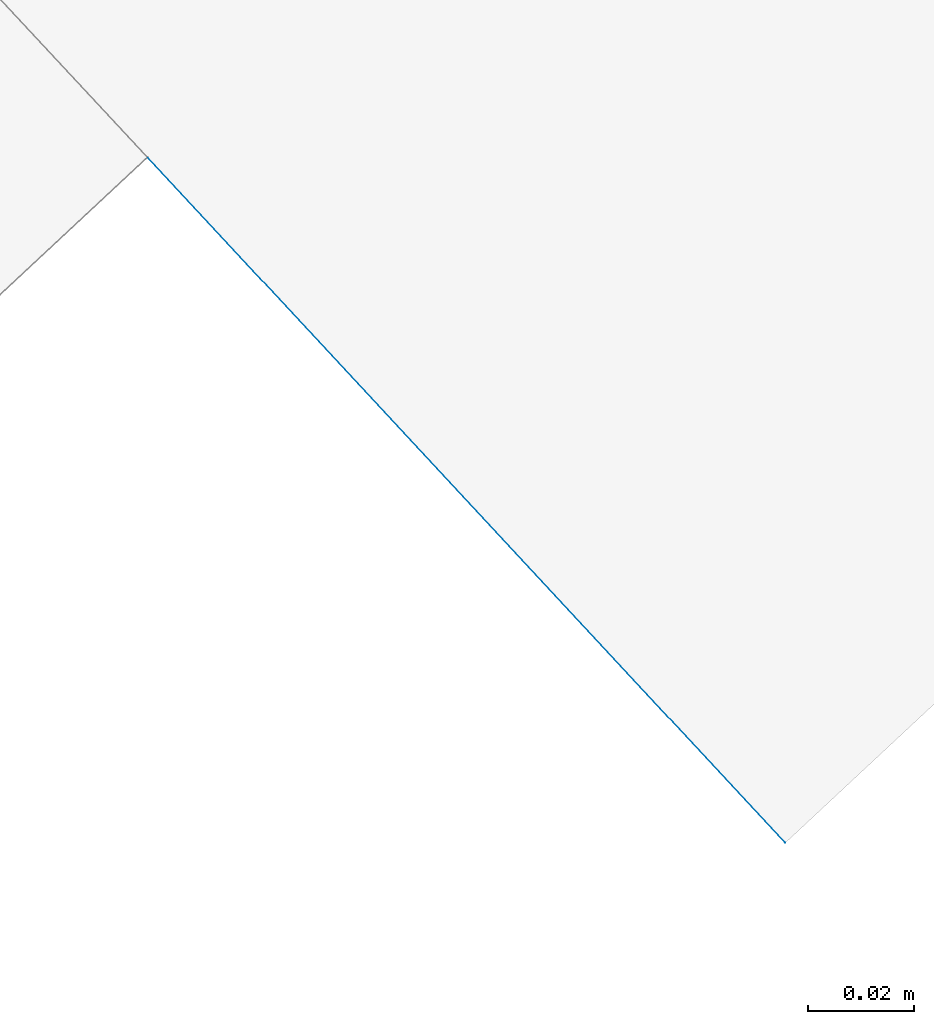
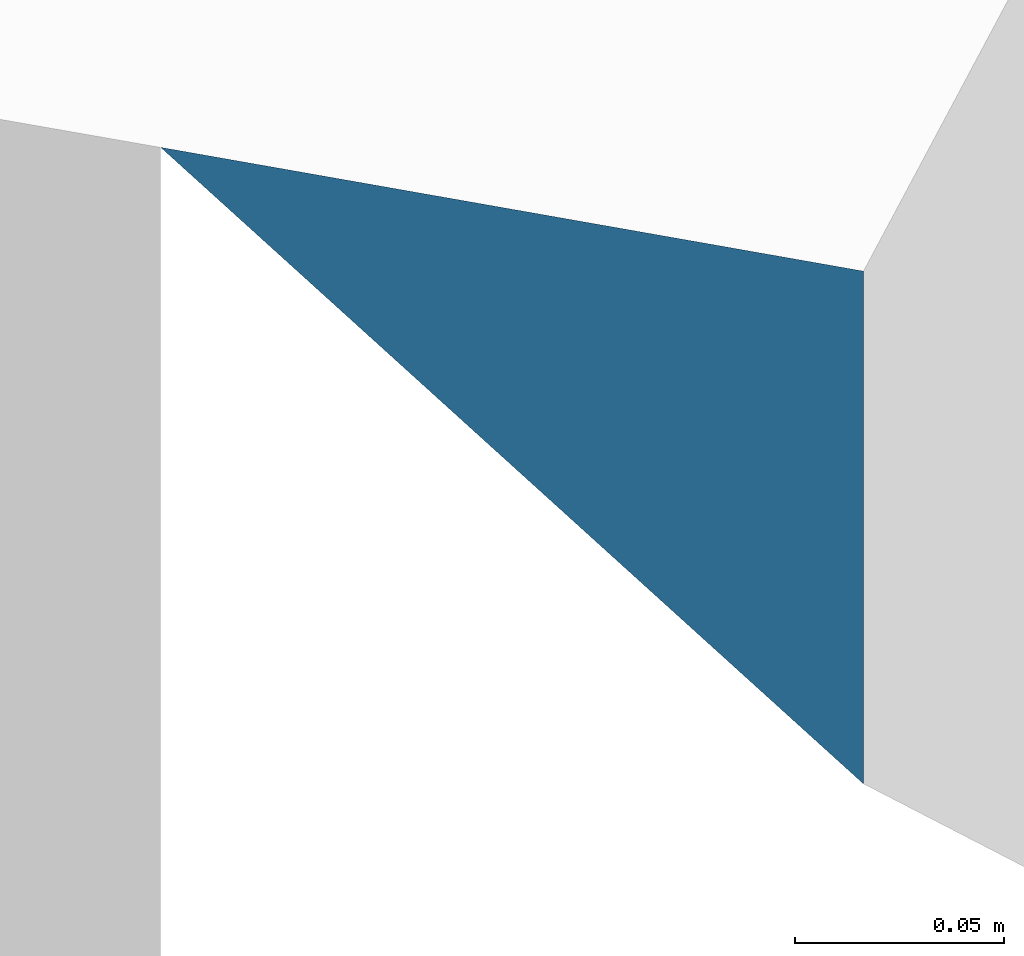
# Not in any storey, part 91 of 136: 1 wall.
"""IFC2X3 building model written with IfcOpenShell, lengths in metres."""

import ifcopenshell
import ifcopenshell.guid

model = None  # the IFC model being written
_history = None  # IfcOwnerHistory: only IFC2X3 demands one
_inside = {}  # id of a spatial element -> (the spatial element, [elements in it])
_under = {}  # id of a project, library or spatial element -> (it, [spatial elements below it])
_declared = {}  # id of a project -> (the project, [libraries it declares])
_typed = {}  # id of a type object -> (the type object, [elements of that type])
_made_of = {}  # id of a material, layer set ... -> (it, [elements and type objects made of it])


def new_model(schema):
    """Start an empty IFC model of exactly this schema.

    Asked for "IFC4X3", IfcOpenShell would pick the latest addendum, in which some entities
    have other attributes; the version numbers below select the first issue.
    IFC2X3 requires an IfcOwnerHistory on every rooted entity: one is made here for all.
    """
    global model, _history
    if schema == "IFC4X3":
        model = ifcopenshell.file(schema_version=(4, 3, 0, 0))
    else:
        model = ifcopenshell.file(schema=schema)
    _inside.clear()
    _under.clear()
    _declared.clear()
    _typed.clear()
    _made_of.clear()
    _history = None
    if model.schema == "IFC2X3":
        org = make("IfcOrganization", Name="unknown")
        user = make(
            "IfcPersonAndOrganization",
            ThePerson=make("IfcPerson", FamilyName="unknown"),
            TheOrganization=org,
        )
        app = make(
            "IfcApplication",
            ApplicationDeveloper=org,
            Version="unknown",
            ApplicationFullName="unknown",
            ApplicationIdentifier="unknown",
        )
        _history = make(
            "IfcOwnerHistory",
            OwningUser=user,
            OwningApplication=app,
            ChangeAction="ADDED",
            CreationDate=0,
        )
    return model


def make(cls, **values):
    """One entity of the class cls with the attributes given. An attribute that is None is left unset."""
    return model.create_entity(
        cls, **{name: value for name, value in values.items() if value is not None}
    )


def entity(cls, *values):
    """Any entity or typed value of the class cls, its attributes in the order of the schema. None: left unset."""
    e = model.create_entity(cls)
    for i, value in enumerate(values):
        if value is not None:
            e[i] = value
    return e


def rooted(cls, **values):
    """An entity with a GlobalId (a new one), such as an element, a storey or a relation."""
    return make(cls, GlobalId=ifcopenshell.guid.new(), OwnerHistory=_history, **values)


def si_unit(unit_type, name, prefix=None):
    """IfcSIUnit, for example si_unit("LENGTHUNIT", "METRE", prefix="MILLI")."""
    return make("IfcSIUnit", UnitType=unit_type, Prefix=prefix, Name=name)


def converted_unit(unit_type, name, factor, base, dimensions=None, offset=None):
    """IfcConversionBasedUnit, such as the inch: factor (a typed value) times the base unit."""
    return make(
        "IfcConversionBasedUnit"
        if offset is None
        else "IfcConversionBasedUnitWithOffset",
        ConversionOffset=offset,
        Dimensions=None
        if dimensions is None
        else entity("IfcDimensionalExponents", *dimensions),
        UnitType=unit_type,
        Name=name,
        ConversionFactor=make(
            "IfcMeasureWithUnit", ValueComponent=factor, UnitComponent=base
        ),
    )


def assignment(units):
    """IfcUnitAssignment: the units of a project."""
    return None if units is None else make("IfcUnitAssignment", Units=units)


def point(xyz):
    """IfcCartesianPoint."""
    return None if xyz is None else make("IfcCartesianPoint", Coordinates=xyz)


def direction(xyz):
    """IfcDirection."""
    return None if xyz is None else make("IfcDirection", DirectionRatios=xyz)


def frame(location, z_axis=None, x_axis=None):
    """IfcAxis2Placement3D, a coordinate frame: its origin and axes. An axis left out is left unset."""
    return make(
        "IfcAxis2Placement3D",
        Location=point(location),
        Axis=direction(z_axis),
        RefDirection=direction(x_axis),
    )


def origin():
    """The frame at (0, 0, 0) with its axes left unset."""
    return frame((0.0, 0.0, 0.0))


def place(relative_to, where):
    """IfcLocalPlacement: puts the frame where relative to a parent placement (None: the world)."""
    return make(
        "IfcLocalPlacement", PlacementRelTo=relative_to, RelativePlacement=where
    )


def context(
    kind, dimensions, precision=None, world=None, true_north=None, identifier=None
):
    """IfcGeometricRepresentationContext, for example the 3D "Model" context."""
    return make(
        "IfcGeometricRepresentationContext",
        ContextIdentifier=identifier,
        ContextType=kind,
        CoordinateSpaceDimension=dimensions,
        Precision=precision,
        WorldCoordinateSystem=world,
        TrueNorth=true_north,
    )


def subcontext(parent, identifier, kind, view, scale=None):
    """IfcGeometricRepresentationSubContext, for example "Body" below "Model"."""
    return make(
        "IfcGeometricRepresentationSubContext",
        ContextIdentifier=identifier,
        ContextType=kind,
        ParentContext=parent,
        TargetScale=scale,
        TargetView=view,
    )


def project(units=None, contexts=None):
    """IfcProject with its units and contexts."""
    return rooted(
        "IfcProject",
        Name="project",
        RepresentationContexts=contexts,
        UnitsInContext=assignment(units),
    )


def spatial(cls, under=None, at=None, **own):
    """A site, building, storey or space (cls), placed at a placement, below another one or the project."""
    s = rooted(cls, ObjectPlacement=at, **own)
    if under is not None:
        _under.setdefault(under.id(), (under, []))[1].append(s)
    return s


def faces_of(points, faces, orient=None, outer=None):
    """IfcFace entities. A face is a list of loops; a loop is a list of indices into points, from 0.

    orient and outer hold one flag for each loop. By default every Orientation is true, the
    first loop of a face is its IfcFaceOuterBound and the others are IfcFaceBound.
    """
    made = []
    for i, loops in enumerate(faces):
        bounds = []
        for j, loop in enumerate(loops):
            is_outer = j == 0 if outer is None else outer[i][j]
            bounds.append(
                make(
                    "IfcFaceOuterBound" if is_outer else "IfcFaceBound",
                    Bound=make("IfcPolyLoop", Polygon=[points[k] for k in loop]),
                    Orientation=True if orient is None else orient[i][j],
                )
            )
        made.append(make("IfcFace", Bounds=bounds))
    return made


def face_set(faces, orient=None, outer=None):
    """The faces of one IfcConnectedFaceSet. surface_model builds it on its shared points."""
    return ("IfcConnectedFaceSet", faces, orient, outer)


def surface_model(cls, points, shells):
    """IfcFaceBasedSurfaceModel or IfcShellBasedSurfaceModel (cls): surfaces that need not close."""
    shared = [point(p) for p in points]
    made = [make(c, CfsFaces=faces_of(shared, fs, o, b)) for c, fs, o, b in shells]
    if cls == "IfcFaceBasedSurfaceModel":
        return make(cls, FbsmFaces=made)
    return make(cls, SbsmBoundary=made)


def shape(context_of_items, identifier, shape_type, items):
    """IfcShapeRepresentation: the items that make up one representation, for example the "Body"."""
    return make(
        "IfcShapeRepresentation",
        ContextOfItems=context_of_items,
        RepresentationIdentifier=identifier,
        RepresentationType=shape_type,
        Items=items,
    )


def made_of(thing, what):
    """Note that an element or type object is made of a material, layer set ...; save() writes the relation."""
    if what is not None:
        _made_of.setdefault(what.id(), (what, []))[1].append(thing)
    return thing


def element(
    cls,
    number,
    at=None,
    inside=None,
    cuts=None,
    type_object=None,
    material=None,
    context=None,
    identifier="Body",
    shape_type=None,
    held_by="IfcProductDefinitionShape",
    body=None,
    shapes=None,
    **own,
):
    """One element of the class cls, such as IfcWall. Its Tag is "e" and its number.

    at: its placement. inside: the storey or other place that contains it. cuts: it is an
    opening in that element (IfcRelVoidsElement). A single representation is given by context,
    identifier, shape_type and body (its items); several are given by shapes. held_by: the class
    of the entity that holds the representations. save() writes the other relations.
    """
    e = rooted(cls, Tag="e%d" % number, ObjectPlacement=at, **own)
    if body is not None:
        shapes = [shape(context, identifier, shape_type, body)]
    if shapes is not None:
        e.Representation = make(held_by, Representations=shapes)
    if inside is not None:
        _inside.setdefault(inside.id(), (inside, []))[1].append(e)
    if cuts is not None:
        rooted(
            "IfcRelVoidsElement", RelatingBuildingElement=cuts, RelatedOpeningElement=e
        )
    if type_object is not None:
        _typed.setdefault(type_object.id(), (type_object, []))[1].append(e)
    return made_of(e, material)


def aggregate(whole, parts):
    """IfcRelAggregates: a whole, such as a stair, and the parts it consists of."""
    return rooted("IfcRelAggregates", RelatingObject=whole, RelatedObjects=parts)


def save(model, path):
    """Write the relations noted so far, then the file.

    IfcRelAggregates (storeys below a building ...), IfcRelContainedInSpatialStructure (elements
    in a storey), IfcRelDefinesByType, IfcRelAssociatesMaterial and IfcRelDeclares: one each for
    every whole, place, type object, material and project.
    """
    for whole, parts in _under.values():
        aggregate(whole, parts)
    for where, things in _inside.values():
        rooted(
            "IfcRelContainedInSpatialStructure",
            RelatedElements=things,
            RelatingStructure=where,
        )
    for kind, things in _typed.values():
        rooted("IfcRelDefinesByType", RelatedObjects=things, RelatingType=kind)
    for what, things in _made_of.values():
        rooted("IfcRelAssociatesMaterial", RelatedObjects=things, RelatingMaterial=what)
    for by, libraries in _declared.values():
        rooted("IfcRelDeclares", RelatingContext=by, RelatedDefinitions=libraries)
    model.write(path)


model = new_model("IFC2X3")

# Units and contexts
model_context = context("Model", 3, precision=1e-05, world=origin())
body_context = subcontext(model_context, "Body", "Model", "MODEL_VIEW")
ifc_project = project(units=[converted_unit("PLANEANGLEUNIT", "DEGREE", entity("IfcRatioMeasure", 0.0174532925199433), si_unit("PLANEANGLEUNIT", "RADIAN"), dimensions=[0, 0, 0, 0, 0, 0, 0]), si_unit("AREAUNIT", "SQUARE_METRE"), si_unit("LENGTHUNIT", "METRE")], contexts=[model_context])

# Site, building
site_placement = place(None, origin())
site = spatial("IfcSite", under=ifc_project, at=site_placement, Name="_site", CompositionType="ELEMENT")
building_placement = place(site_placement, origin())
building = spatial("IfcBuilding", under=site, at=building_placement, Name="_building", CompositionType="ELEMENT")

# Wall
wall_placement = place(building_placement, origin())
element("IfcWall", 1, at=wall_placement, inside=building, Name="Wall", context=body_context, shape_type="SurfaceModel", body=[
    surface_model("IfcFaceBasedSurfaceModel", [(150.13, -45.899, 51.89), (150.01, -45.77, 51.89), (150.13, -45.899, 51.74)], [face_set([[[0, 1, 2]]])]),
])

save(model, "model.ifc")
